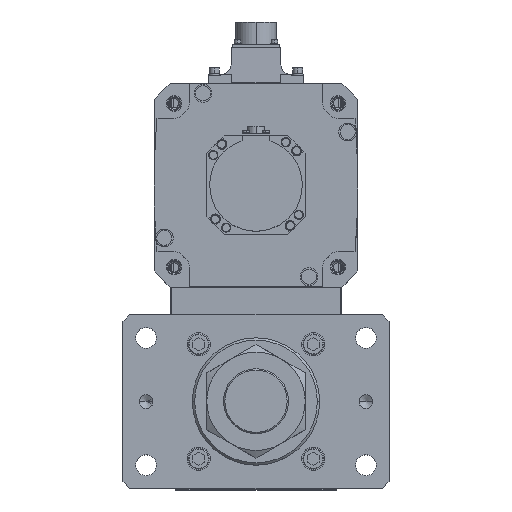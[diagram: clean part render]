
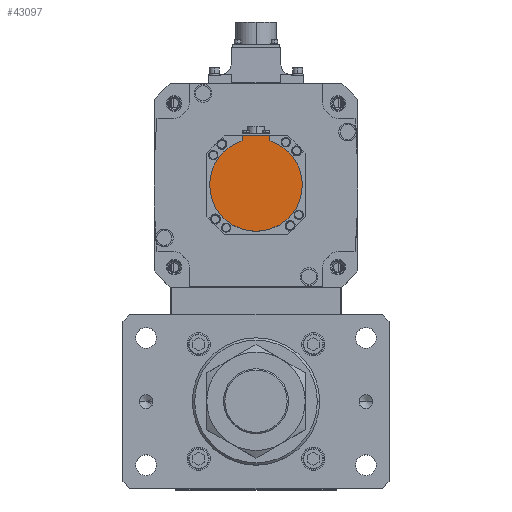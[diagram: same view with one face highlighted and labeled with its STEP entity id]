
A CAD part, top view. The second image highlights one B-rep face of the part: STEP entity #43097.
In plain terms, the highlighted planar face has unit normal (0, 0, 1) as drawn and (0, 0, -1) by its records, which use the part's own axes.
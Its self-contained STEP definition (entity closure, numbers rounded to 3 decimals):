
#371 = VERTEX_POINT ( 'NONE', #25701 ) ;
#1977 = LINE ( 'NONE', #35042, #3257 ) ;
#2414 = AXIS2_PLACEMENT_3D ( 'NONE', #19258, #23675, #11748 ) ;
#2711 = VECTOR ( 'NONE', #37215, 1000. ) ;
#2778 = ORIENTED_EDGE ( 'NONE', *, *, #26114, .T. ) ;
#3147 = CARTESIAN_POINT ( 'NONE',  ( -12., -42.5, -162.5 ) ) ;
#3257 = VECTOR ( 'NONE', #15607, 1000. ) ;
#4356 = CARTESIAN_POINT ( 'NONE',  ( 12., -38.158, -162.5 ) ) ;
#6342 = CARTESIAN_POINT ( 'NONE',  ( -12., -40.329, -162.5 ) ) ;
#7570 = CARTESIAN_POINT ( 'NONE',  ( 0., -1.249, -162.5 ) ) ;
#9346 = EDGE_LOOP ( 'NONE', ( #17347, #44883, #27052, #10842, #19820, #2778 ) ) ;
#10275 = VERTEX_POINT ( 'NONE', #20217 ) ;
#10842 = ORIENTED_EDGE ( 'NONE', *, *, #46747, .F. ) ;
#11748 = DIRECTION ( 'NONE',  ( 1., 0., 0. ) ) ;
#11931 = CARTESIAN_POINT ( 'NONE',  ( 0., -42.5, -162.5 ) ) ;
#13838 = VERTEX_POINT ( 'NONE', #51540 ) ;
#15607 = DIRECTION ( 'NONE',  ( 0., 1., 0. ) ) ;
#17347 = ORIENTED_EDGE ( 'NONE', *, *, #38013, .T. ) ;
#17714 = EDGE_CURVE ( 'NONE', #371, #24992, #28984, .T. ) ;
#18365 = DIRECTION ( 'NONE',  ( 1., 0., 0. ) ) ;
#18466 = DIRECTION ( 'NONE',  ( 0., 1., 0. ) ) ;
#19258 = CARTESIAN_POINT ( 'NONE',  ( 0., 0., -162.5 ) ) ;
#19527 = PLANE ( 'NONE',  #52593 ) ;
#19820 = ORIENTED_EDGE ( 'NONE', *, *, #28088, .F. ) ;
#20217 = CARTESIAN_POINT ( 'NONE',  ( 12., -42.5, -162.5 ) ) ;
#21997 = CARTESIAN_POINT ( 'NONE',  ( 0., 0., -162.5 ) ) ;
#22545 = LINE ( 'NONE', #6342, #30847 ) ;
#23146 = AXIS2_PLACEMENT_3D ( 'NONE', #47191, #42749, #18365 ) ;
#23675 = DIRECTION ( 'NONE',  ( 0., 0., 1. ) ) ;
#24992 = VERTEX_POINT ( 'NONE', #26829 ) ;
#25701 = CARTESIAN_POINT ( 'NONE',  ( -40., 0., -162.5 ) ) ;
#26114 = EDGE_CURVE ( 'NONE', #10275, #46340, #46645, .T. ) ;
#26261 = DIRECTION ( 'NONE',  ( 0., 0., 1. ) ) ;
#26829 = CARTESIAN_POINT ( 'NONE',  ( -12., -38.158, -162.5 ) ) ;
#27052 = ORIENTED_EDGE ( 'NONE', *, *, #34103, .F. ) ;
#28088 = EDGE_CURVE ( 'NONE', #10275, #47934, #1977, .T. ) ;
#28984 = CIRCLE ( 'NONE', #23146, 40. ) ;
#30549 = FACE_OUTER_BOUND ( 'NONE', #9346, .T. ) ;
#30847 = VECTOR ( 'NONE', #18466, 1000. ) ;
#34103 = EDGE_CURVE ( 'NONE', #13838, #371, #45067, .T. ) ;
#35042 = CARTESIAN_POINT ( 'NONE',  ( 12., -1.249, -162.5 ) ) ;
#36058 = DIRECTION ( 'NONE',  ( 0., 0., 1. ) ) ;
#37215 = DIRECTION ( 'NONE',  ( -1., 0., 0. ) ) ;
#38013 = EDGE_CURVE ( 'NONE', #46340, #24992, #22545, .T. ) ;
#42749 = DIRECTION ( 'NONE',  ( 0., 0., 1. ) ) ;
#43097 = ADVANCED_FACE ( 'NONE', ( #30549 ), #19527, .F. ) ;
#44883 = ORIENTED_EDGE ( 'NONE', *, *, #17714, .F. ) ;
#45067 = CIRCLE ( 'NONE', #2414, 40. ) ;
#45661 = CIRCLE ( 'NONE', #46549, 40. ) ;
#46340 = VERTEX_POINT ( 'NONE', #3147 ) ;
#46549 = AXIS2_PLACEMENT_3D ( 'NONE', #21997, #26261, #50514 ) ;
#46645 = LINE ( 'NONE', #11931, #2711 ) ;
#46747 = EDGE_CURVE ( 'NONE', #47934, #13838, #45661, .T. ) ;
#47191 = CARTESIAN_POINT ( 'NONE',  ( 0., 0., -162.5 ) ) ;
#47934 = VERTEX_POINT ( 'NONE', #4356 ) ;
#50514 = DIRECTION ( 'NONE',  ( 1., 0., 0. ) ) ;
#51540 = CARTESIAN_POINT ( 'NONE',  ( 40., 0., -162.5 ) ) ;
#51966 = DIRECTION ( 'NONE',  ( 1., 0., 0. ) ) ;
#52593 = AXIS2_PLACEMENT_3D ( 'NONE', #7570, #36058, #51966 ) ;
